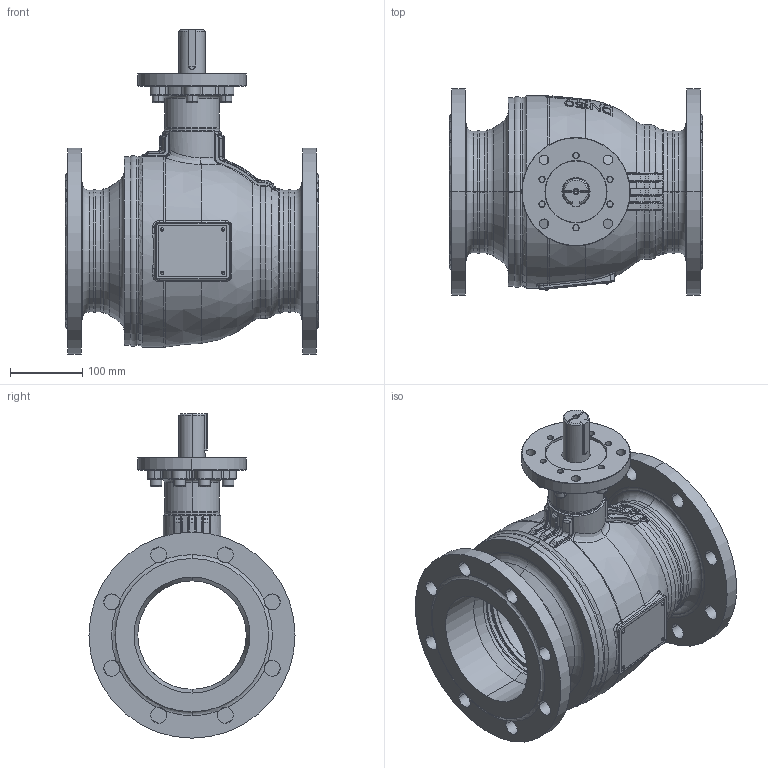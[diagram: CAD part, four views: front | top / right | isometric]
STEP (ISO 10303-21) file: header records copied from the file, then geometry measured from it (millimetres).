
FILE_DESCRIPTION((''),'2;1');
FILE_NAME('KHMO-F-V-150P016-VII-_SW0001','2024-04-16T15:16:07',('jeitlers'),('KLINGER'),'CREO PARAMETRIC BY PTC INC, 2023014','CREO PARAMETRIC BY PTC INC, 2023014','');
FILE_SCHEMA(('CONFIG_CONTROL_DESIGN'));
Products named in the file (1): KHMO-F-V-150P016-VII-_SW0001
Bounding box: 350 x 285 x 448.5 mm (x, y, z)
Volume: 5792827.2 mm3; surface area: 1323025 mm2
Topology: 4 solids, 4 shells, 1490 faces, 3800 edges, 2341 vertices
Faces by surface type: plane 612, cylinder 313, torus 222, bspline 188, cone 130, sphere 25
Entity records: 68364 total; most frequent: CARTESIAN_POINT 33842, ORIENTED_EDGE 7540, DIRECTION 6998, EDGE_CURVE 3770, AXIS2_PLACEMENT_3D 2949, VERTEX_POINT 2341, CIRCLE 1647, EDGE_LOOP 1605
